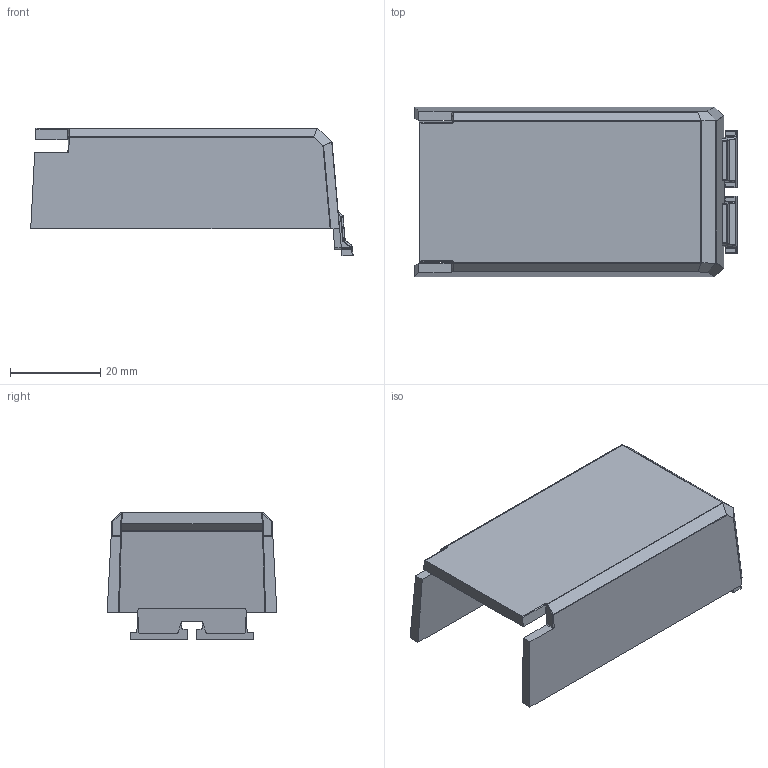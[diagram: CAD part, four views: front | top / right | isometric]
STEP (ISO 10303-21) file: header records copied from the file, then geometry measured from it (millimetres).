
FILE_DESCRIPTION((''),'2;1');
FILE_NAME('3878-0044_RR-EXT-DC-CVR','2017-10-10T',('owenrh01'),(''),'CREO PARAMETRIC BY PTC INC, 2015380','CREO PARAMETRIC BY PTC INC, 2015380','');
FILE_SCHEMA(('CONFIG_CONTROL_DESIGN'));
Length unit declared in the file: millimetre
Products named in the file (1): 3878-0044_RR-EXT-DC-CVR
Bounding box: 71.47 x 37.6 x 28.2 mm (x, y, z)
Volume: 13154.9 mm3; surface area: 11925.5 mm2
Topology: 1 solids, 1 shells, 226 faces, 534 edges, 310 vertices
Faces by surface type: cylinder 92, plane 72, bspline 34, sphere 28
Entity records: 7604 total; most frequent: CARTESIAN_POINT 2740, ORIENTED_EDGE 1068, DIRECTION 912, EDGE_CURVE 534, AXIS2_PLACEMENT_3D 318, VERTEX_POINT 310, VECTOR 276, LINE 276
